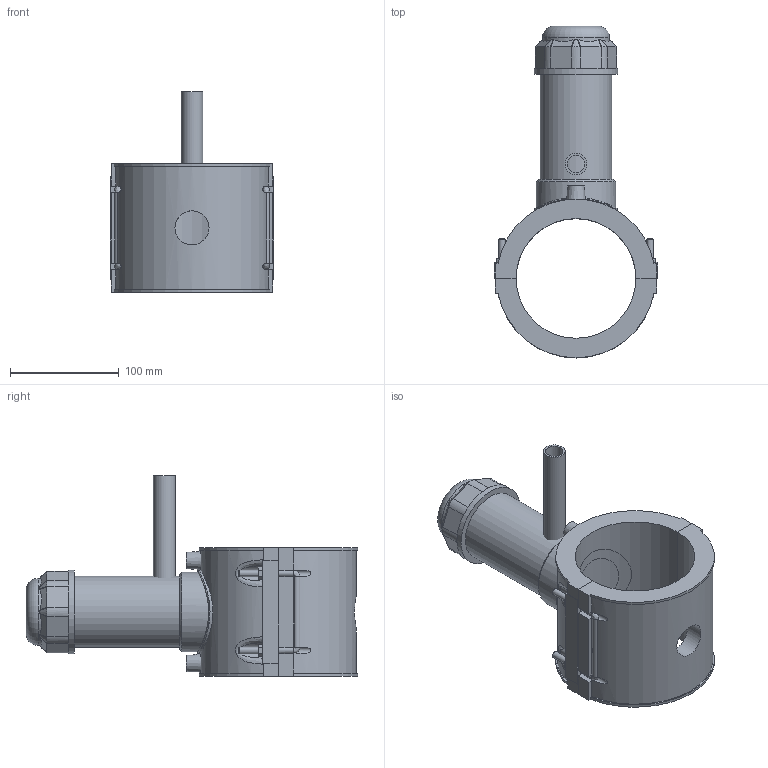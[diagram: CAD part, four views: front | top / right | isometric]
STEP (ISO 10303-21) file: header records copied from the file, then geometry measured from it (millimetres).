
FILE_DESCRIPTION(/* description */ (''),/* implementation_level */ '2;1');
FILE_NAME(/* name */ 'C:\Dropbox\KIMPROJECTS-Inventor 2019\99-16-3568-Processing\ElectroFusion Fittings\4963P4\stp\4963P4110020.stp',/* time_stamp */ '2022-03-17T11:27:33+02:00',/* author */ ('KIM'),/* organization */ (''),/* preprocessor_version */ 'ST-DEVELOPER v17.2',/* originating_system */ 'Autodesk Inventor 2019',/* authorisation */ '');
FILE_SCHEMA (('AUTOMOTIVE_DESIGN { 1 0 10303 214 3 1 1 }'));
Length unit declared in the file: millimetre
Products named in the file (1): 4963P4110020
Bounding box: 150 x 304.93 x 184 mm (x, y, z)
Volume: 1160007.8 mm3; surface area: 213608.5 mm2
Topology: 3 solids, 3 shells, 218 faces, 563 edges, 364 vertices
Faces by surface type: plane 125, cylinder 52, bspline 25, cone 15, torus 1
Full cylindrical faces by diameter (mm): 4 x2, 6 x8, 10 x2, 16 x1, 20 x1, 31.36 x1, 53.9 x1, 61.6 x1, 65.45 x1, 73.15 x1, 77 x2
Entity records: 8231 total; most frequent: CARTESIAN_POINT 2967, ORIENTED_EDGE 1126, DIRECTION 1011, EDGE_CURVE 563, VERTEX_POINT 364, AXIS2_PLACEMENT_3D 347, LINE 317, VECTOR 317
